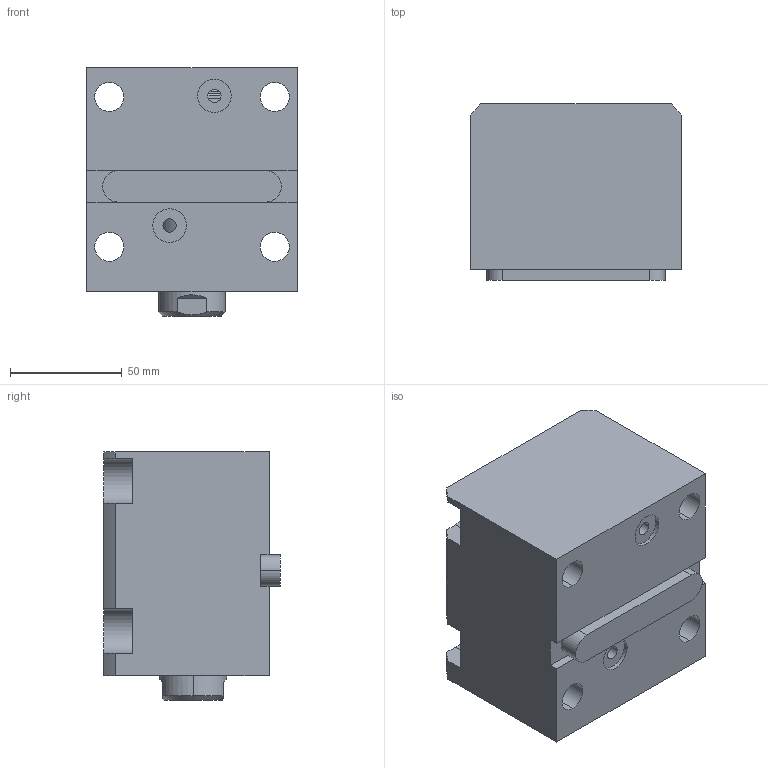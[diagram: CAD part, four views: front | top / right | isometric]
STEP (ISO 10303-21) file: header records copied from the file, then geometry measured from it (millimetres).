
FILE_DESCRIPTION (( 'STEP AP203' ), '1' );
FILE_NAME ('CHTB-LAM50-40N.STEP', '2018-05-23T10:21:13', ( '' ), ( '' ), 'SwSTEP 2.0', 'SolidWorks 2015', '' );
FILE_SCHEMA (( 'CONFIG_CONTROL_DESIGN' ));
Length unit declared in the file: millimetre
Products named in the file (4): 掛极LAM50-40N; CHTM-SDMA50QG; 活塞杆LAM50-40N; CHTB-LAM50-40N
Assembly tree (3 placements, depth 2):
  CHTB-LAM50-40N
    掛极LAM50-40N
    CHTM-SDMA50QG
    活塞杆LAM50-40N
Bounding box: 94 x 79 x 111 mm (x, y, z)
Volume: 590892.1 mm3; surface area: 106405.3 mm2
Topology: 3 solids, 3 shells, 192 faces, 524 edges, 347 vertices
Faces by surface type: cylinder 96, plane 51, torus 16, cone 15, bspline 14
Entity records: 11011 total; most frequent: CARTESIAN_POINT 5956, ORIENTED_EDGE 1036, DIRECTION 908, EDGE_CURVE 518, AXIS2_PLACEMENT_3D 356, VERTEX_POINT 347, EDGE_LOOP 221, VECTOR 196
